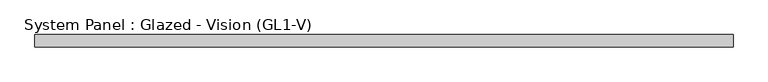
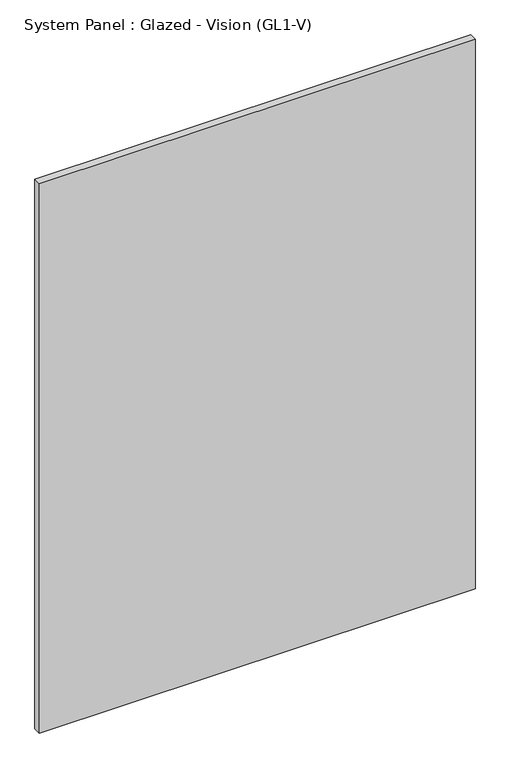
"""IFC4 building model written with IfcOpenShell, lengths in millimetres: plate geometry, System Panel : Glazed - Vision (GL1-V)."""

import ifcopenshell
import ifcopenshell.guid

model = None  # the IFC model being written
_history = None  # IfcOwnerHistory: only IFC2X3 demands one
_inside = {}  # id of a spatial element -> (the spatial element, [elements in it])
_under = {}  # id of a project, library or spatial element -> (it, [spatial elements below it])
_declared = {}  # id of a project -> (the project, [libraries it declares])
_typed = {}  # id of a type object -> (the type object, [elements of that type])
_made_of = {}  # id of a material, layer set ... -> (it, [elements and type objects made of it])


def new_model(schema):
    """Start an empty IFC model of exactly this schema.

    Asked for "IFC4X3", IfcOpenShell would pick the latest addendum, in which some entities
    have other attributes; the version numbers below select the first issue.
    IFC2X3 requires an IfcOwnerHistory on every rooted entity: one is made here for all.
    """
    global model, _history
    if schema == "IFC4X3":
        model = ifcopenshell.file(schema_version=(4, 3, 0, 0))
    else:
        model = ifcopenshell.file(schema=schema)
    _inside.clear()
    _under.clear()
    _declared.clear()
    _typed.clear()
    _made_of.clear()
    _history = None
    if model.schema == "IFC2X3":
        org = make("IfcOrganization", Name="unknown")
        user = make(
            "IfcPersonAndOrganization",
            ThePerson=make("IfcPerson", FamilyName="unknown"),
            TheOrganization=org,
        )
        app = make(
            "IfcApplication",
            ApplicationDeveloper=org,
            Version="unknown",
            ApplicationFullName="unknown",
            ApplicationIdentifier="unknown",
        )
        _history = make(
            "IfcOwnerHistory",
            OwningUser=user,
            OwningApplication=app,
            ChangeAction="ADDED",
            CreationDate=0,
        )
    return model


def make(cls, **values):
    """One entity of the class cls with the attributes given. An attribute that is None is left unset."""
    return model.create_entity(
        cls, **{name: value for name, value in values.items() if value is not None}
    )


def rooted(cls, **values):
    """An entity with a GlobalId (a new one), such as an element, a storey or a relation."""
    return make(cls, GlobalId=ifcopenshell.guid.new(), OwnerHistory=_history, **values)


def si_unit(unit_type, name, prefix=None):
    """IfcSIUnit, for example si_unit("LENGTHUNIT", "METRE", prefix="MILLI")."""
    return make("IfcSIUnit", UnitType=unit_type, Prefix=prefix, Name=name)


def assignment(units):
    """IfcUnitAssignment: the units of a project."""
    return None if units is None else make("IfcUnitAssignment", Units=units)


def point(xyz):
    """IfcCartesianPoint."""
    return None if xyz is None else make("IfcCartesianPoint", Coordinates=xyz)


def direction(xyz):
    """IfcDirection."""
    return None if xyz is None else make("IfcDirection", DirectionRatios=xyz)


def frame(location, z_axis=None, x_axis=None):
    """IfcAxis2Placement3D, a coordinate frame: its origin and axes. An axis left out is left unset."""
    return make(
        "IfcAxis2Placement3D",
        Location=point(location),
        Axis=direction(z_axis),
        RefDirection=direction(x_axis),
    )


def origin():
    """The frame at (0, 0, 0) with its axes left unset."""
    return frame((0.0, 0.0, 0.0))


def origin_with_axes():
    """The frame at (0, 0, 0) with the z axis (0, 0, 1) and the x axis (1, 0, 0) written out."""
    return frame((0.0, 0.0, 0.0), z_axis=(0.0, 0.0, 1.0), x_axis=(1.0, 0.0, 0.0))


def place(relative_to, where):
    """IfcLocalPlacement: puts the frame where relative to a parent placement (None: the world)."""
    return make(
        "IfcLocalPlacement", PlacementRelTo=relative_to, RelativePlacement=where
    )


def context(
    kind, dimensions, precision=None, world=None, true_north=None, identifier=None
):
    """IfcGeometricRepresentationContext, for example the 3D "Model" context."""
    return make(
        "IfcGeometricRepresentationContext",
        ContextIdentifier=identifier,
        ContextType=kind,
        CoordinateSpaceDimension=dimensions,
        Precision=precision,
        WorldCoordinateSystem=world,
        TrueNorth=true_north,
    )


def project(units=None, contexts=None):
    """IfcProject with its units and contexts."""
    return rooted(
        "IfcProject",
        Name="project",
        RepresentationContexts=contexts,
        UnitsInContext=assignment(units),
    )


def spatial(cls, under=None, at=None, **own):
    """A site, building, storey or space (cls), placed at a placement, below another one or the project."""
    s = rooted(cls, ObjectPlacement=at, **own)
    if under is not None:
        _under.setdefault(under.id(), (under, []))[1].append(s)
    return s


def polyline(points):
    """IfcPolyline through the points."""
    return make("IfcPolyline", Points=[point(p) for p in points])


def outline(outer, holes=None, kind="AREA"):
    """IfcArbitraryClosedProfileDef: a profile drawn as a closed curve; with holes, ...WithVoids."""
    if holes is None:
        return make("IfcArbitraryClosedProfileDef", ProfileType=kind, OuterCurve=outer)
    return make(
        "IfcArbitraryProfileDefWithVoids",
        ProfileType=kind,
        OuterCurve=outer,
        InnerCurves=holes,
    )


def extrude(swept, where, along, depth):
    """IfcExtrudedAreaSolid: the profile swept, set in the frame where, extruded along a direction by depth."""
    return make(
        "IfcExtrudedAreaSolid",
        SweptArea=swept,
        Position=where,
        ExtrudedDirection=direction(along),
        Depth=depth,
    )


def shape(context_of_items, identifier, shape_type, items):
    """IfcShapeRepresentation: the items that make up one representation, for example the "Body"."""
    return make(
        "IfcShapeRepresentation",
        ContextOfItems=context_of_items,
        RepresentationIdentifier=identifier,
        RepresentationType=shape_type,
        Items=items,
    )


def source(mapping_origin, context_of_items, identifier, shape_type, items):
    """IfcRepresentationMap: a shape defined once, which mapped items show again and again."""
    return make(
        "IfcRepresentationMap",
        MappingOrigin=mapping_origin,
        MappedRepresentation=shape(context_of_items, identifier, shape_type, items),
    )


def transform(
    local_origin,
    x_axis=None,
    y_axis=None,
    z_axis=None,
    scale=None,
    scale2=None,
    scale3=None,
    uniform=True,
):
    """IfcCartesianTransformationOperator3D, or its non-uniform kind. x_axis, y_axis, z_axis: its Axis1, 2, 3."""
    if uniform:
        return make(
            "IfcCartesianTransformationOperator3D",
            Axis1=direction(x_axis),
            Axis2=direction(y_axis),
            LocalOrigin=point(local_origin),
            Scale=scale,
            Axis3=direction(z_axis),
        )
    return make(
        "IfcCartesianTransformationOperator3DnonUniform",
        Axis1=direction(x_axis),
        Axis2=direction(y_axis),
        LocalOrigin=point(local_origin),
        Scale=scale,
        Axis3=direction(z_axis),
        Scale2=scale2,
        Scale3=scale3,
    )


def mapped(mapping_source, mapping_target):
    """IfcMappedItem: shows the shape of a source again, moved by a transform."""
    return make(
        "IfcMappedItem", MappingSource=mapping_source, MappingTarget=mapping_target
    )


def made_of(thing, what):
    """Note that an element or type object is made of a material, layer set ...; save() writes the relation."""
    if what is not None:
        _made_of.setdefault(what.id(), (what, []))[1].append(thing)
    return thing


def element(
    cls,
    number,
    at=None,
    inside=None,
    cuts=None,
    type_object=None,
    material=None,
    context=None,
    identifier="Body",
    shape_type=None,
    held_by="IfcProductDefinitionShape",
    body=None,
    shapes=None,
    **own,
):
    """One element of the class cls, such as IfcWall. Its Tag is "e" and its number.

    at: its placement. inside: the storey or other place that contains it. cuts: it is an
    opening in that element (IfcRelVoidsElement). A single representation is given by context,
    identifier, shape_type and body (its items); several are given by shapes. held_by: the class
    of the entity that holds the representations. save() writes the other relations.
    """
    e = rooted(cls, Tag="e%d" % number, ObjectPlacement=at, **own)
    if body is not None:
        shapes = [shape(context, identifier, shape_type, body)]
    if shapes is not None:
        e.Representation = make(held_by, Representations=shapes)
    if inside is not None:
        _inside.setdefault(inside.id(), (inside, []))[1].append(e)
    if cuts is not None:
        rooted(
            "IfcRelVoidsElement", RelatingBuildingElement=cuts, RelatedOpeningElement=e
        )
    if type_object is not None:
        _typed.setdefault(type_object.id(), (type_object, []))[1].append(e)
    return made_of(e, material)


def aggregate(whole, parts):
    """IfcRelAggregates: a whole, such as a stair, and the parts it consists of."""
    return rooted("IfcRelAggregates", RelatingObject=whole, RelatedObjects=parts)


def save(model, path):
    """Write the relations noted so far, then the file.

    IfcRelAggregates (storeys below a building ...), IfcRelContainedInSpatialStructure (elements
    in a storey), IfcRelDefinesByType, IfcRelAssociatesMaterial and IfcRelDeclares: one each for
    every whole, place, type object, material and project.
    """
    for whole, parts in _under.values():
        aggregate(whole, parts)
    for where, things in _inside.values():
        rooted(
            "IfcRelContainedInSpatialStructure",
            RelatedElements=things,
            RelatingStructure=where,
        )
    for kind, things in _typed.values():
        rooted("IfcRelDefinesByType", RelatedObjects=things, RelatingType=kind)
    for what, things in _made_of.values():
        rooted("IfcRelAssociatesMaterial", RelatedObjects=things, RelatingMaterial=what)
    for by, libraries in _declared.values():
        rooted("IfcRelDeclares", RelatingContext=by, RelatedDefinitions=libraries)
    model.write(path)


def system_panel_glazed_vision_gl1_v_7ba2307d(model_context):
    return source(origin(), model_context, "Body", "SweptSolid", [
        extrude(outline(polyline([(714.375, -25.4), (-714.375, -25.4), (-714.375, 0.0), (714.375, 0.0), (714.375, -25.4)])), origin_with_axes(), (0.0, 0.0, 1.0), 1904.999999),
    ])


if __name__ == "__main__":
    model = new_model("IFC4")
    model_context = context("Model", 3, world=origin())
    ifc_project = project(units=[si_unit("LENGTHUNIT", "METRE", prefix="MILLI")], contexts=[model_context])
    site = spatial("IfcSite", under=ifc_project)
    building = spatial("IfcBuilding", under=site)
    placement = place(None, origin())
    system_panel_glazed_vision_gl1_v_shape = system_panel_glazed_vision_gl1_v_7ba2307d(model_context)
    element("IfcPlate", 1, ObjectType="System Panel : Glazed - Vision (GL1-V)", at=placement, inside=building, context=model_context, shape_type="MappedRepresentation", body=[
        mapped(system_panel_glazed_vision_gl1_v_shape, transform((0.0, 0.0, 0.0), x_axis=(1.0, 0.0, 0.0), y_axis=(0.0, 1.0, 0.0), z_axis=(0.0, 0.0, 1.0))),
    ])
    save(model, "model.ifc")
